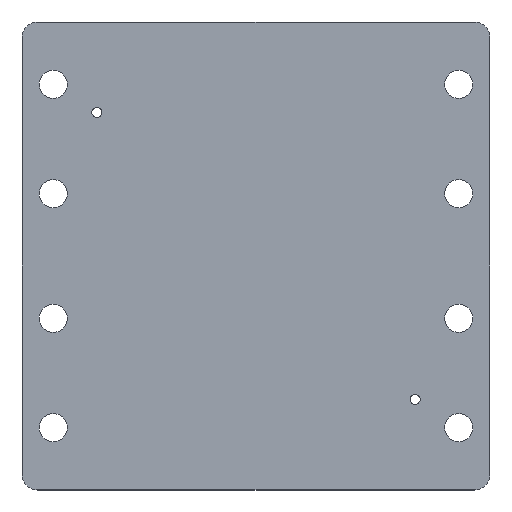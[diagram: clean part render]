
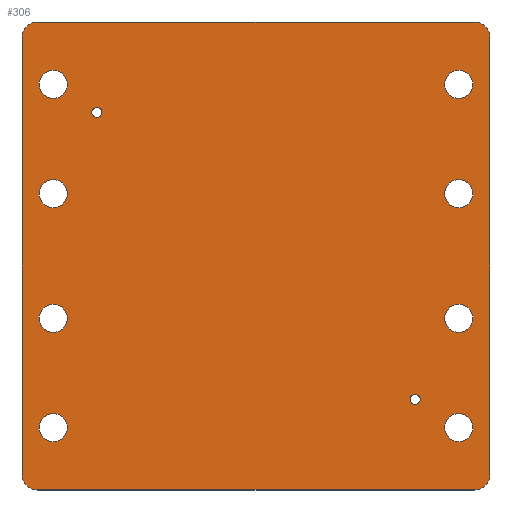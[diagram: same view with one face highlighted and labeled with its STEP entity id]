
A CAD part, top view. The second image highlights one B-rep face of the part: STEP entity #306.
In plain terms, the highlighted planar face has unit normal (0, 0, 1).
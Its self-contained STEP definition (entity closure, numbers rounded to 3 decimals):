
#24 = VERTEX_POINT('',#25);
#25 = CARTESIAN_POINT('',(-70.,-75.,6.));
#31 = EDGE_CURVE('',#24,#32,#34,.T.);
#32 = VERTEX_POINT('',#33);
#33 = CARTESIAN_POINT('',(70.,-75.,6.));
#34 = LINE('',#35,#36);
#35 = CARTESIAN_POINT('',(-70.,-75.,6.));
#36 = VECTOR('',#37,1.);
#37 = DIRECTION('',(1.,0.,0.));
#64 = VERTEX_POINT('',#65);
#65 = CARTESIAN_POINT('',(-75.,-70.,6.));
#71 = EDGE_CURVE('',#64,#24,#72,.T.);
#72 = CIRCLE('',#73,5.);
#73 = AXIS2_PLACEMENT_3D('',#74,#75,#76);
#74 = CARTESIAN_POINT('',(-70.,-70.,6.));
#75 = DIRECTION('',(0.,0.,1.));
#76 = DIRECTION('',(1.,0.,0.));
#95 = EDGE_CURVE('',#32,#96,#98,.T.);
#96 = VERTEX_POINT('',#97);
#97 = CARTESIAN_POINT('',(75.,-70.,6.));
#98 = CIRCLE('',#99,5.);
#99 = AXIS2_PLACEMENT_3D('',#100,#101,#102);
#100 = CARTESIAN_POINT('',(70.,-70.,6.));
#101 = DIRECTION('',(0.,0.,1.));
#102 = DIRECTION('',(1.,0.,0.));
#306 = ADVANCED_FACE('',(#307,#352,#363,#374,#385,#396,#407,#418,#429,
    #440,#451),#462,.T.);
#307 = FACE_BOUND('',#308,.T.);
#308 = EDGE_LOOP('',(#309,#310,#311,#319,#328,#336,#345,#351));
#309 = ORIENTED_EDGE('',*,*,#31,.T.);
#310 = ORIENTED_EDGE('',*,*,#95,.T.);
#311 = ORIENTED_EDGE('',*,*,#312,.T.);
#312 = EDGE_CURVE('',#96,#313,#315,.T.);
#313 = VERTEX_POINT('',#314);
#314 = CARTESIAN_POINT('',(75.,70.,6.));
#315 = LINE('',#316,#317);
#316 = CARTESIAN_POINT('',(75.,-70.,6.));
#317 = VECTOR('',#318,1.);
#318 = DIRECTION('',(0.,1.,0.));
#319 = ORIENTED_EDGE('',*,*,#320,.T.);
#320 = EDGE_CURVE('',#313,#321,#323,.T.);
#321 = VERTEX_POINT('',#322);
#322 = CARTESIAN_POINT('',(70.,75.,6.));
#323 = CIRCLE('',#324,5.);
#324 = AXIS2_PLACEMENT_3D('',#325,#326,#327);
#325 = CARTESIAN_POINT('',(70.,70.,6.));
#326 = DIRECTION('',(0.,0.,1.));
#327 = DIRECTION('',(1.,0.,0.));
#328 = ORIENTED_EDGE('',*,*,#329,.T.);
#329 = EDGE_CURVE('',#321,#330,#332,.T.);
#330 = VERTEX_POINT('',#331);
#331 = CARTESIAN_POINT('',(-70.,75.,6.));
#332 = LINE('',#333,#334);
#333 = CARTESIAN_POINT('',(70.,75.,6.));
#334 = VECTOR('',#335,1.);
#335 = DIRECTION('',(-1.,0.,0.));
#336 = ORIENTED_EDGE('',*,*,#337,.T.);
#337 = EDGE_CURVE('',#330,#338,#340,.T.);
#338 = VERTEX_POINT('',#339);
#339 = CARTESIAN_POINT('',(-75.,70.,6.));
#340 = CIRCLE('',#341,5.);
#341 = AXIS2_PLACEMENT_3D('',#342,#343,#344);
#342 = CARTESIAN_POINT('',(-70.,70.,6.));
#343 = DIRECTION('',(0.,0.,1.));
#344 = DIRECTION('',(1.,0.,0.));
#345 = ORIENTED_EDGE('',*,*,#346,.T.);
#346 = EDGE_CURVE('',#338,#64,#347,.T.);
#347 = LINE('',#348,#349);
#348 = CARTESIAN_POINT('',(-75.,70.,6.));
#349 = VECTOR('',#350,1.);
#350 = DIRECTION('',(0.,-1.,0.));
#351 = ORIENTED_EDGE('',*,*,#71,.T.);
#352 = FACE_BOUND('',#353,.T.);
#353 = EDGE_LOOP('',(#354));
#354 = ORIENTED_EDGE('',*,*,#355,.F.);
#355 = EDGE_CURVE('',#356,#356,#358,.T.);
#356 = VERTEX_POINT('',#357);
#357 = CARTESIAN_POINT('',(-60.5,-55.,6.));
#358 = CIRCLE('',#359,4.5);
#359 = AXIS2_PLACEMENT_3D('',#360,#361,#362);
#360 = CARTESIAN_POINT('',(-65.,-55.,6.));
#361 = DIRECTION('',(0.,0.,1.));
#362 = DIRECTION('',(1.,0.,0.));
#363 = FACE_BOUND('',#364,.T.);
#364 = EDGE_LOOP('',(#365));
#365 = ORIENTED_EDGE('',*,*,#366,.F.);
#366 = EDGE_CURVE('',#367,#367,#369,.T.);
#367 = VERTEX_POINT('',#368);
#368 = CARTESIAN_POINT('',(-60.5,-20.,6.));
#369 = CIRCLE('',#370,4.5);
#370 = AXIS2_PLACEMENT_3D('',#371,#372,#373);
#371 = CARTESIAN_POINT('',(-65.,-20.,6.));
#372 = DIRECTION('',(0.,0.,1.));
#373 = DIRECTION('',(1.,0.,0.));
#374 = FACE_BOUND('',#375,.T.);
#375 = EDGE_LOOP('',(#376));
#376 = ORIENTED_EDGE('',*,*,#377,.F.);
#377 = EDGE_CURVE('',#378,#378,#380,.T.);
#378 = VERTEX_POINT('',#379);
#379 = CARTESIAN_POINT('',(52.6,-46.,6.));
#380 = CIRCLE('',#381,1.6);
#381 = AXIS2_PLACEMENT_3D('',#382,#383,#384);
#382 = CARTESIAN_POINT('',(51.,-46.,6.));
#383 = DIRECTION('',(0.,0.,1.));
#384 = DIRECTION('',(1.,0.,0.));
#385 = FACE_BOUND('',#386,.T.);
#386 = EDGE_LOOP('',(#387));
#387 = ORIENTED_EDGE('',*,*,#388,.F.);
#388 = EDGE_CURVE('',#389,#389,#391,.T.);
#389 = VERTEX_POINT('',#390);
#390 = CARTESIAN_POINT('',(69.5,-55.,6.));
#391 = CIRCLE('',#392,4.5);
#392 = AXIS2_PLACEMENT_3D('',#393,#394,#395);
#393 = CARTESIAN_POINT('',(65.,-55.,6.));
#394 = DIRECTION('',(0.,0.,1.));
#395 = DIRECTION('',(1.,0.,0.));
#396 = FACE_BOUND('',#397,.T.);
#397 = EDGE_LOOP('',(#398));
#398 = ORIENTED_EDGE('',*,*,#399,.F.);
#399 = EDGE_CURVE('',#400,#400,#402,.T.);
#400 = VERTEX_POINT('',#401);
#401 = CARTESIAN_POINT('',(69.5,-20.,6.));
#402 = CIRCLE('',#403,4.5);
#403 = AXIS2_PLACEMENT_3D('',#404,#405,#406);
#404 = CARTESIAN_POINT('',(65.,-20.,6.));
#405 = DIRECTION('',(0.,0.,1.));
#406 = DIRECTION('',(1.,0.,0.));
#407 = FACE_BOUND('',#408,.T.);
#408 = EDGE_LOOP('',(#409));
#409 = ORIENTED_EDGE('',*,*,#410,.F.);
#410 = EDGE_CURVE('',#411,#411,#413,.T.);
#411 = VERTEX_POINT('',#412);
#412 = CARTESIAN_POINT('',(-60.5,20.,6.));
#413 = CIRCLE('',#414,4.5);
#414 = AXIS2_PLACEMENT_3D('',#415,#416,#417);
#415 = CARTESIAN_POINT('',(-65.,20.,6.));
#416 = DIRECTION('',(0.,0.,1.));
#417 = DIRECTION('',(1.,0.,0.));
#418 = FACE_BOUND('',#419,.T.);
#419 = EDGE_LOOP('',(#420));
#420 = ORIENTED_EDGE('',*,*,#421,.F.);
#421 = EDGE_CURVE('',#422,#422,#424,.T.);
#422 = VERTEX_POINT('',#423);
#423 = CARTESIAN_POINT('',(-60.5,55.,6.));
#424 = CIRCLE('',#425,4.5);
#425 = AXIS2_PLACEMENT_3D('',#426,#427,#428);
#426 = CARTESIAN_POINT('',(-65.,55.,6.));
#427 = DIRECTION('',(0.,0.,1.));
#428 = DIRECTION('',(1.,0.,0.));
#429 = FACE_BOUND('',#430,.T.);
#430 = EDGE_LOOP('',(#431));
#431 = ORIENTED_EDGE('',*,*,#432,.F.);
#432 = EDGE_CURVE('',#433,#433,#435,.T.);
#433 = VERTEX_POINT('',#434);
#434 = CARTESIAN_POINT('',(-49.4,46.,6.));
#435 = CIRCLE('',#436,1.6);
#436 = AXIS2_PLACEMENT_3D('',#437,#438,#439);
#437 = CARTESIAN_POINT('',(-51.,46.,6.));
#438 = DIRECTION('',(0.,0.,1.));
#439 = DIRECTION('',(1.,0.,0.));
#440 = FACE_BOUND('',#441,.T.);
#441 = EDGE_LOOP('',(#442));
#442 = ORIENTED_EDGE('',*,*,#443,.F.);
#443 = EDGE_CURVE('',#444,#444,#446,.T.);
#444 = VERTEX_POINT('',#445);
#445 = CARTESIAN_POINT('',(69.5,20.,6.));
#446 = CIRCLE('',#447,4.5);
#447 = AXIS2_PLACEMENT_3D('',#448,#449,#450);
#448 = CARTESIAN_POINT('',(65.,20.,6.));
#449 = DIRECTION('',(0.,0.,1.));
#450 = DIRECTION('',(1.,0.,0.));
#451 = FACE_BOUND('',#452,.T.);
#452 = EDGE_LOOP('',(#453));
#453 = ORIENTED_EDGE('',*,*,#454,.F.);
#454 = EDGE_CURVE('',#455,#455,#457,.T.);
#455 = VERTEX_POINT('',#456);
#456 = CARTESIAN_POINT('',(69.5,55.,6.));
#457 = CIRCLE('',#458,4.5);
#458 = AXIS2_PLACEMENT_3D('',#459,#460,#461);
#459 = CARTESIAN_POINT('',(65.,55.,6.));
#460 = DIRECTION('',(0.,0.,1.));
#461 = DIRECTION('',(1.,0.,0.));
#462 = PLANE('',#463);
#463 = AXIS2_PLACEMENT_3D('',#464,#465,#466);
#464 = CARTESIAN_POINT('',(0.,0.,6.));
#465 = DIRECTION('',(0.,0.,1.));
#466 = DIRECTION('',(1.,0.,0.));
